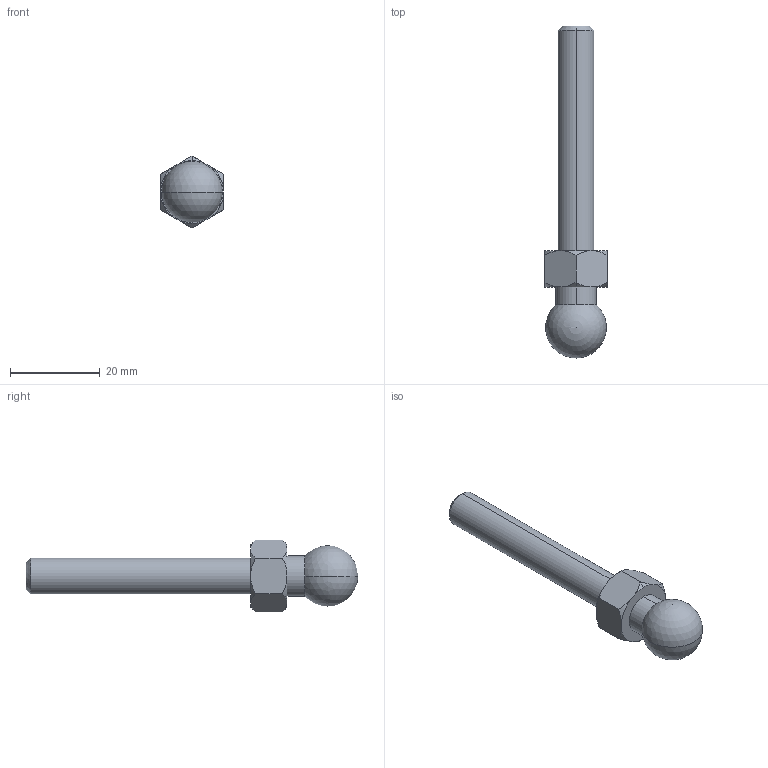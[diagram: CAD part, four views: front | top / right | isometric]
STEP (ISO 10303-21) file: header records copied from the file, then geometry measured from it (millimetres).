
FILE_DESCRIPTION (( 'STEP AP203' ), '1' );
FILE_NAME ('CP-TR8X50.STEP', '2018-03-16T12:30:59', ( '' ), ( '' ), 'SwSTEP 2.0', 'SolidWorks 2013', '' );
FILE_SCHEMA (( 'CONFIG_CONTROL_DESIGN' ));
Length unit declared in the file: millimetre
Products named in the file (1): CP-TR8X50
Bounding box: 13.86 x 73.78 x 16 mm (x, y, z)
Volume: 5309.4 mm3; surface area: 2487.5 mm2
Topology: 1 solids, 1 shells, 31 faces, 83 edges, 54 vertices
Faces by surface type: cone 16, plane 9, cylinder 4, sphere 2
Entity records: 1101 total; most frequent: CARTESIAN_POINT 297, ORIENTED_EDGE 156, DIRECTION 146, EDGE_CURVE 78, AXIS2_PLACEMENT_3D 60, VERTEX_POINT 51, EDGE_LOOP 33, FACE_OUTER_BOUND 31
